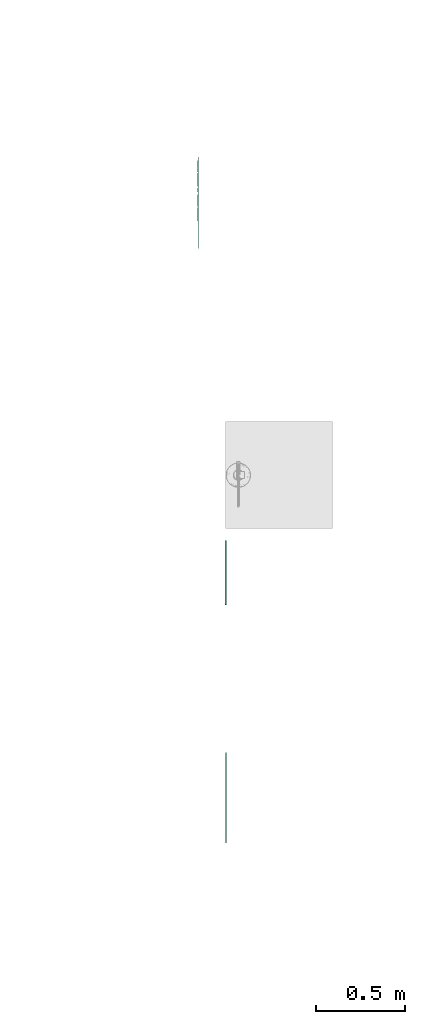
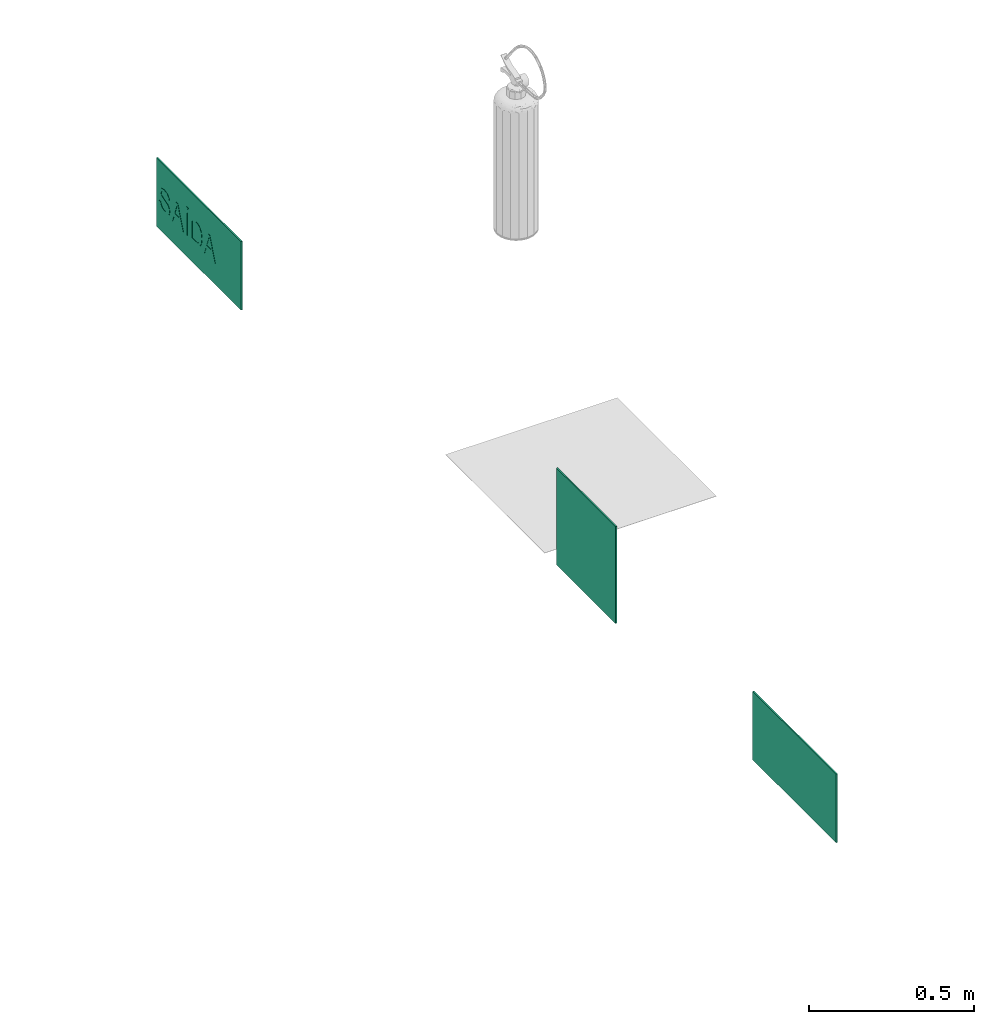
# One storey, part 6 of 9: 3 flow terminals.
"""IFC2X3 building model written with IfcOpenShell, lengths in metres."""

from ifc_helpers import new_model, entity, si_unit, converted_unit, derived_unit, direction, frame, frame_2d, origin, origin_2d_with_axis, place, context, subcontext, project, spatial, polyline, circle_curve, parameter, trimmed, segment, composite_curve, rectangle, circle, outline, extrude, source, transform, mapped, material, material_list, type_object, type_shapes, element, save


model = new_model("IFC2X3")

# Units and contexts
model_context = context("Model", 3, precision=1e-05, world=origin(), true_north=direction((6.12303176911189e-17, 1.0)))
body_context = subcontext(model_context, "Body", "Model", "MODEL_VIEW")
ifc_project = project(units=[si_unit("LENGTHUNIT", "METRE"), si_unit("AREAUNIT", "SQUARE_METRE"), si_unit("VOLUMEUNIT", "CUBIC_METRE"), converted_unit("PLANEANGLEUNIT", "DEGREE", entity("IfcRatioMeasure", 0.0174532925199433), si_unit("PLANEANGLEUNIT", "RADIAN"), dimensions=[0, 0, 0, 0, 0, 0, 0]), si_unit("MASSUNIT", "GRAM", prefix="KILO"), derived_unit("MASSDENSITYUNIT", [(si_unit("MASSUNIT", "GRAM", prefix="KILO"), 1), (si_unit("LENGTHUNIT", "METRE"), -3)]), derived_unit("MOMENTOFINERTIAUNIT", [(si_unit("LENGTHUNIT", "METRE"), 4)]), si_unit("TIMEUNIT", "SECOND"), si_unit("FREQUENCYUNIT", "HERTZ"), si_unit("THERMODYNAMICTEMPERATUREUNIT", "DEGREE_CELSIUS"), derived_unit("THERMALTRANSMITTANCEUNIT", [(si_unit("MASSUNIT", "GRAM", prefix="KILO"), 1), (si_unit("THERMODYNAMICTEMPERATUREUNIT", "KELVIN"), -1), (si_unit("TIMEUNIT", "SECOND"), -3)]), derived_unit("VOLUMETRICFLOWRATEUNIT", [(si_unit("LENGTHUNIT", "METRE"), 3), (si_unit("TIMEUNIT", "SECOND"), -1)]), si_unit("ELECTRICCURRENTUNIT", "AMPERE"), si_unit("ELECTRICVOLTAGEUNIT", "VOLT"), si_unit("POWERUNIT", "WATT"), si_unit("FORCEUNIT", "NEWTON", prefix="KILO"), si_unit("ILLUMINANCEUNIT", "LUX"), si_unit("LUMINOUSFLUXUNIT", "LUMEN"), si_unit("LUMINOUSINTENSITYUNIT", "CANDELA"), derived_unit("USERDEFINED", [(si_unit("MASSUNIT", "GRAM", prefix="KILO"), -1), (si_unit("LENGTHUNIT", "METRE"), -2), (si_unit("TIMEUNIT", "SECOND"), 3), (si_unit("LUMINOUSFLUXUNIT", "LUMEN"), 1)]), derived_unit("LINEARVELOCITYUNIT", [(si_unit("LENGTHUNIT", "METRE"), 1), (si_unit("TIMEUNIT", "SECOND"), -1)]), si_unit("PRESSUREUNIT", "PASCAL"), derived_unit("USERDEFINED", [(si_unit("LENGTHUNIT", "METRE"), -2), (si_unit("MASSUNIT", "GRAM", prefix="KILO"), 1), (si_unit("TIMEUNIT", "SECOND"), -2)]), derived_unit("LINEARFORCEUNIT", [(si_unit("MASSUNIT", "GRAM", prefix="KILO"), 1), (si_unit("LENGTHUNIT", "METRE"), 1), (si_unit("TIMEUNIT", "SECOND"), -2), (si_unit("LENGTHUNIT", "METRE"), -1)]), derived_unit("PLANARFORCEUNIT", [(si_unit("MASSUNIT", "GRAM", prefix="KILO"), 1), (si_unit("LENGTHUNIT", "METRE"), 1), (si_unit("TIMEUNIT", "SECOND"), -2), (si_unit("LENGTHUNIT", "METRE"), -2)])], contexts=[model_context])

# Site, building, storey
site_placement = place(None, origin())
site = spatial("IfcSite", under=ifc_project, at=site_placement, Name="Default", CompositionType="ELEMENT")
building_placement = place(site_placement, origin())
building = spatial("IfcBuilding", under=site, at=building_placement, Name="C.L. MONSENHOR ANTÔNIO SAMPAIO", CompositionType="ELEMENT")
storey_placement = place(building_placement, origin())
storey = spatial("IfcBuildingStorey", under=building, at=storey_placement, Name="TÉRREO", CompositionType="ELEMENT", Elevation=0.0)

# Flow terminals
ifc_material_1 = material(Name="Branco")
ifc_material_2 = material(Name="VERMELHO")
ifc_material_list_1 = material_list([ifc_material_1, ifc_material_2])
distribution_element_type_1 = type_object("IfcDistributionElementType", Name="E5:10 metros", material=ifc_material_1)
shared_shape_1 = source(origin(), body_context, "Body", "SweptSolid", [
    extrude(outline(composite_curve([segment(polyline([(-0.254128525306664, -0.0465583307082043), (-0.0191285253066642, -0.0465583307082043)]), True, "CONTINUOUS"), segment(trimmed(circle_curve(frame_2d((-0.0664803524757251, 0.00975665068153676), x_axis=(0.0, 1.0)), 0.0735769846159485), [parameter(220.058428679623)], [parameter(257.560611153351)], True, "PARAMETER"), True, "CONTINUOUS"), segment(polyline([(0.00536937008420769, -0.00609232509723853), (0.0303693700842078, -0.006092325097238)]), True, "CONTINUOUS"), segment(polyline([(0.0303693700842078, -0.006092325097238), (0.0303693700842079, -0.0230808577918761)]), True, "CONTINUOUS"), segment(polyline([(0.0303693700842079, -0.0230808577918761), (0.0043083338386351, -0.0617179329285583)]), True, "CONTINUOUS"), segment(polyline([(0.0043083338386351, -0.0617179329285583), (-0.0104637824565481, -0.0643226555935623)]), True, "CONTINUOUS"), segment(polyline([(-0.0104637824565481, -0.0643226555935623), (-0.010463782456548, -0.0743226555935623)]), True, "CONTINUOUS"), segment(polyline([(-0.010463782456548, -0.0743226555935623), (0.0120002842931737, -0.0743226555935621)]), True, "CONTINUOUS"), segment(polyline([(0.0120002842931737, -0.0743226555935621), (0.0533610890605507, -0.0267424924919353)]), True, "CONTINUOUS"), segment(polyline([(0.0533610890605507, -0.0267424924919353), (0.0533610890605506, -0.00174249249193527)]), True, "CONTINUOUS"), segment(polyline([(0.0533610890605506, -0.00174249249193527), (0.0602467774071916, -0.00174249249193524)]), True, "CONTINUOUS"), segment(polyline([(0.0602467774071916, -0.00174249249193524), (0.0602467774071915, 0.0232575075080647)]), True, "CONTINUOUS"), segment(polyline([(0.0602467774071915, 0.0232575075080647), (0.0533610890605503, 0.0232575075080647)]), True, "CONTINUOUS"), segment(polyline([(0.0533610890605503, 0.0232575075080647), (0.0533610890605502, 0.0463624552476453)]), True, "CONTINUOUS"), segment(polyline([(0.0533610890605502, 0.0463624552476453), (0.0451773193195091, 0.0545462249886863)]), True, "CONTINUOUS"), segment(polyline([(0.0451773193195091, 0.0545462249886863), (0.0401773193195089, 0.0545462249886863)]), True, "CONTINUOUS"), segment(polyline([(0.0401773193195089, 0.0545462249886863), (0.0303693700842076, 0.0447382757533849)]), True, "CONTINUOUS"), segment(polyline([(0.0303693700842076, 0.0447382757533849), (0.0303693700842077, 0.0272220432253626)]), True, "CONTINUOUS"), segment(polyline([(0.0303693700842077, 0.0272220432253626), (0.00499364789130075, 0.0272220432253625)]), True, "CONTINUOUS"), segment(trimmed(circle_curve(frame_2d((-0.0664803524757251, 0.00975665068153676), x_axis=(0.0, 1.0)), 0.0735769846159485), [parameter(283.731707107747)], [parameter(319.941571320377)], True, "PARAMETER"), True, "CONTINUOUS"), segment(polyline([(-0.019128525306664, 0.0660716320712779), (-0.254128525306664, 0.0660716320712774)]), True, "CONTINUOUS"), segment(polyline([(-0.254128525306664, 0.0660716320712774), (-0.254128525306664, -0.0465583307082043)]), True, "CONTINUOUS")], self_intersect=False)), frame((-0.00975665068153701, -0.005, 0.271403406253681), z_axis=(0.0, 1.0, 0.0), x_axis=(0.0, 0.0, 1.0)), (0.0, 0.0, 1.0), 0.005),
    extrude(outline(polyline([(-0.179, -0.178999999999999), (0.179000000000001, -0.178999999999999), (0.179000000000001, 0.178999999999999), (-0.179000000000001, 0.178999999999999), (-0.179, -0.178999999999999)]), holes=[composite_curve([segment(polyline([(-0.0563149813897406, -0.161725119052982), (-0.056314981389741, 0.0732748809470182)]), True, "CONTINUOUS"), segment(trimmed(circle_curve(frame_2d((0.0, 0.025923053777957), x_axis=(-1.0, 0.0)), 0.0735769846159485), [parameter(283.731707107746)], [parameter(319.941571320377)], True, "PARAMETER"), False, "CONTINUOUS"), segment(polyline([(-0.0174653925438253, 0.0973970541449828), (-0.0174653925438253, 0.12277277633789)]), True, "CONTINUOUS"), segment(polyline([(-0.0174653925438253, 0.12277277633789), (-0.0349816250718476, 0.12277277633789)]), True, "CONTINUOUS"), segment(polyline([(-0.0349816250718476, 0.12277277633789), (-0.044789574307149, 0.132580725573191)]), True, "CONTINUOUS"), segment(polyline([(-0.044789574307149, 0.132580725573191), (-0.044789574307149, 0.137580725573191)]), True, "CONTINUOUS"), segment(polyline([(-0.044789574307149, 0.137580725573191), (-0.0366058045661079, 0.145764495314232)]), True, "CONTINUOUS"), segment(polyline([(-0.0366058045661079, 0.145764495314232), (-0.0135008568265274, 0.145764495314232)]), True, "CONTINUOUS"), segment(polyline([(-0.0135008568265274, 0.145764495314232), (-0.0135008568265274, 0.152650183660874)]), True, "CONTINUOUS"), segment(polyline([(-0.0135008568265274, 0.152650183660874), (0.0114991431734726, 0.152650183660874)]), True, "CONTINUOUS"), segment(polyline([(0.0114991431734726, 0.152650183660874), (0.0114991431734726, 0.145764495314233)]), True, "CONTINUOUS"), segment(polyline([(0.0114991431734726, 0.145764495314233), (0.0364991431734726, 0.145764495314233)]), True, "CONTINUOUS"), segment(polyline([(0.0364991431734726, 0.145764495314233), (0.0840793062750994, 0.104403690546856)]), True, "CONTINUOUS"), segment(polyline([(0.0840793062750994, 0.104403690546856), (0.0840793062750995, 0.081939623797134)]), True, "CONTINUOUS"), segment(polyline([(0.0840793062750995, 0.081939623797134), (0.0740793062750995, 0.0819396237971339)]), True, "CONTINUOUS"), segment(polyline([(0.0740793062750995, 0.0819396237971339), (0.0714745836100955, 0.0967117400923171)]), True, "CONTINUOUS"), segment(polyline([(0.0714745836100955, 0.0967117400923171), (0.0328375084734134, 0.12277277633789)]), True, "CONTINUOUS"), segment(polyline([(0.0328375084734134, 0.12277277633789), (0.0158489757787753, 0.12277277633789)]), True, "CONTINUOUS"), segment(polyline([(0.0158489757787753, 0.12277277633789), (0.0158489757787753, 0.0977727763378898)]), True, "CONTINUOUS"), segment(trimmed(circle_curve(frame_2d((0.0, 0.025923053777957), x_axis=(-1.0, 0.0)), 0.0735769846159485), [parameter(220.058428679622)], [parameter(257.560611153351)], True, "PARAMETER"), False, "CONTINUOUS"), segment(polyline([(0.0563149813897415, 0.0732748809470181), (0.0563149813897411, -0.161725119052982)]), True, "CONTINUOUS"), segment(polyline([(0.0563149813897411, -0.161725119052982), (-0.0563149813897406, -0.161725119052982)]), True, "CONTINUOUS")], self_intersect=False)]), frame((0.0, -0.005, 0.178999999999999), z_axis=(0.0, 1.0, 0.0), x_axis=(-1.0, 0.0, 0.0)), (0.0, 0.0, 1.0), 0.005),
])
type_shapes(distribution_element_type_1, [shared_shape_1])
flow_terminal_1_placement = place(building_placement, frame((-5.84055229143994, -21.1874139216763, 0.0), z_axis=(0.0, 0.0, 1.0), x_axis=(0.0, 1.0, 0.0)))
element("IfcFlowTerminal", 1, at=flow_terminal_1_placement, inside=storey, type_object=distribution_element_type_1, material=ifc_material_list_1, Name="E5:10 metros", ObjectType="E5:10 metros", context=body_context, shape_type="MappedRepresentation", body=[
    mapped(shared_shape_1, transform((0.0, 0.0, 0.0), scale=1.0)),
])
ifc_material_3 = material(Name="VERDE")
ifc_material_list_2 = material_list([ifc_material_1, ifc_material_3])
distribution_element_type_2 = type_object("IfcDistributionElementType", Name="S2:10 metros", material=ifc_material_1)
shared_shape_2 = source(origin(), body_context, "Body", "SweptSolid", [
    extrude(outline(polyline([(-0.12748118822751, 0.0610696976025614), (-0.12748118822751, -0.0766837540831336), (-0.0524811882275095, -0.0766837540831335), (-0.0524811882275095, -0.0586375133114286), (-0.0754210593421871, -0.0425748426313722), (-0.0838734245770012, -0.0244486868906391), (-0.0838734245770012, 0.0305513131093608), (-0.0465667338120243, 0.0557149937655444), (-0.0359601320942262, 0.0451083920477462), (-0.0649764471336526, 0.02553664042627), (-0.0649764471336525, 0.00553664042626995), (-0.0287241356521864, 0.022441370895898), (0.0135955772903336, 0.0261438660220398), (0.0155685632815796, 0.0637906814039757), (0.0343450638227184, 0.0825671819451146), (0.0366135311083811, 0.0176067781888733), (0.0260069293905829, 0.00700017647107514), (-0.00370111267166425, 0.00282498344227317), (-0.00109649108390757, -0.00276064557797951), (0.0690217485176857, -0.0369595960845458), (0.0690217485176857, -0.0633954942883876), (-0.0208576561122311, -0.0195583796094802), (-0.0294894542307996, -0.0195583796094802), (-0.0512605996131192, -0.0348026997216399), (-0.029319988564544, -0.0552626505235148), (-0.029319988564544, -0.0766837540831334), (0.070680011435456, -0.0766837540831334), (0.084822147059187, -0.0625416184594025), (0.0848221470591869, -0.0462279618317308), (0.0717118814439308, -0.0572287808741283), (0.0717118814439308, -0.0310842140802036), (0.0848221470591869, -0.0179739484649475), (0.0848221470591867, 0.0744479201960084), (0.0714395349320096, 0.0595850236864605), (0.0393589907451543, 0.0595850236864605), (0.0393589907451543, 0.0895850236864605), (0.0340999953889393, 0.0895850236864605), (0.00751881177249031, 0.0610696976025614), (-0.12748118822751, 0.0610696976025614)]), holes=[composite_curve([segment(trimmed(circle_curve(frame_2d((-0.103271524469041, -0.0324099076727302), x_axis=(0.0, -1.0)), 0.0177066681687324), [parameter(6.61555373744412e-13)], [parameter(180.0)], True, "PARAMETER"), False, "CONTINUOUS"), segment(trimmed(circle_curve(frame_2d((-0.103271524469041, -0.0324099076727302), x_axis=(0.0, -1.0)), 0.0177066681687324), [parameter(180.0)], [parameter(0.0)], True, "PARAMETER"), False, "CONTINUOUS")], self_intersect=False)]), frame((0.135804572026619, -0.005, 0.100036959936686), z_axis=(0.0, -1.0, 0.0), x_axis=(0.0, 0.0, -1.0)), (0.0, 0.0, -1.0), 0.005),
    extrude(outline(polyline([(-0.0156689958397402, -0.0893393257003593), (0.0156689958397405, -0.0893393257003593), (0.0156689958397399, 0.0256606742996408), (0.0545598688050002, -0.0132301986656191), (0.0545598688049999, 0.0317698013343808), (0.0, 0.0902780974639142), (-0.0545598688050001, 0.0317698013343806), (-0.0545598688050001, -0.0132301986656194), (-0.01566899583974, 0.0256606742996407), (-0.0156689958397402, -0.0893393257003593)])), frame((-0.12865825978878, -0.005, 0.12724469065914), z_axis=(0.0, 1.0, 0.0), x_axis=(0.0, 0.0, -1.0)), (0.0, 0.0, 1.0), 0.005),
    extrude(outline(polyline([(-0.126499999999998, -0.253), (0.1265, -0.253), (0.126499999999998, 0.253), (-0.1265, 0.252999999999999), (-0.126499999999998, -0.253)]), holes=[polyline([(0.0164136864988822, -0.154318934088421), (0.0553045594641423, -0.11542806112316), (0.0553045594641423, -0.16042806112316), (0.000744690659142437, -0.218936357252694), (-0.0538151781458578, -0.160428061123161), (-0.0538151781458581, -0.115428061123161), (-0.0149243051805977, -0.154318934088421), (-0.0149243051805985, -0.0393189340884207), (0.0164136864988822, -0.0393189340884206), (0.0164136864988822, -0.154318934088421)]), polyline([(0.101018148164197, 0.19687426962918), (0.101018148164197, 0.0591208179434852), (0.0260181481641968, 0.0591208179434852), (0.0260181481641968, 0.0771670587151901), (0.0489580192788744, 0.0932297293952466), (0.0574103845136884, 0.11135588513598), (0.0574103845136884, 0.16635588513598), (0.0201036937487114, 0.191519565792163), (0.00949709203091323, 0.180912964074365), (0.0385134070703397, 0.161341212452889), (0.0385134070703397, 0.141341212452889), (0.00226109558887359, 0.158245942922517), (-0.0400586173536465, 0.161948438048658), (-0.0420316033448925, 0.199595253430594), (-0.0608081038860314, 0.218371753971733), (-0.063076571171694, 0.153411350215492), (-0.0524699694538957, 0.142804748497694), (-0.0227619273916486, 0.138629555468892), (-0.0253665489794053, 0.133043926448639), (-0.0954847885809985, 0.0988449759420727), (-0.0954847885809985, 0.0724090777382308), (-0.00560538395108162, 0.116246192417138), (0.0030264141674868, 0.116246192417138), (0.0247975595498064, 0.101001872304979), (0.00285694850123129, 0.0805419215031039), (0.00285694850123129, 0.0591208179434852), (-0.0971430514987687, 0.059120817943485), (-0.1112851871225, 0.0732629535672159), (-0.1112851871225, 0.0895766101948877), (-0.0981749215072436, 0.0785757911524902), (-0.0981749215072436, 0.104720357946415), (-0.1112851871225, 0.117830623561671), (-0.1112851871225, 0.210252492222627), (-0.0979025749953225, 0.195389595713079), (-0.0658220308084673, 0.195389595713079), (-0.0658220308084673, 0.225389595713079), (-0.0605630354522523, 0.225389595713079), (-0.0339818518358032, 0.19687426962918), (0.101018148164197, 0.19687426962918)])]), frame((0.0, -0.005, 0.126499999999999), z_axis=(0.0, 1.0, 0.0), x_axis=(0.0, 0.0, 1.0)), (0.0, 0.0, 1.0), 0.005),
    extrude(circle(Radius=0.0177066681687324, at=frame_2d((0.0, -1.01518793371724e-16), x_axis=(1.0, 0.0))), frame((0.103394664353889, -0.005, 0.203308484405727), z_axis=(0.0, 1.0, 0.0), x_axis=(-1.0, 0.0, 0.0)), (0.0, 0.0, 1.0), 0.005),
])
type_shapes(distribution_element_type_2, [shared_shape_2])
flow_terminal_2_placement = place(building_placement, frame((-5.84055229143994, -22.4496297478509, 0.0), z_axis=(0.0, 0.0, 1.0), x_axis=(0.0, 1.0, 0.0)))
element("IfcFlowTerminal", 2, at=flow_terminal_2_placement, inside=storey, type_object=distribution_element_type_2, material=ifc_material_list_2, Name="S2:10 metros", ObjectType="S2:10 metros", context=body_context, shape_type="MappedRepresentation", body=[
    mapped(shared_shape_2, transform((0.0, 0.0, 0.0), scale=1.0)),
])
ifc_material_list_3 = material_list([ifc_material_1, ifc_material_3])
distribution_element_type_3 = type_object("IfcDistributionElementType", Name="S14:10 metros", material=ifc_material_1)
shared_shape_3 = source(origin(), body_context, "Body", "SweptSolid", [
    extrude(outline(polyline([(-0.0336503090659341, 0.0122800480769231), (-0.0231887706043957, 0.0122800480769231), (-0.0198173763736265, 0.0227518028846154), (-0.0115830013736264, 0.0293719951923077), (0.000962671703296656, 0.0318954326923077), (0.011894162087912, 0.0299849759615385), (0.0189536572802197, 0.0247337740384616), (0.0212727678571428, 0.0177151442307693), (0.0195359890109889, 0.0111868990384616), (0.012425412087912, 0.00643629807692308), (-0.00280716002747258, 0.00244170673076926), (-0.0192043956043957, -0.00271754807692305), (-0.0281028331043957, -0.0105024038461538), (-0.0310349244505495, -0.0209026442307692), (-0.0274081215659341, -0.0327433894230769), (-0.0168137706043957, -0.0411003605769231), (-0.00130535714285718, -0.0439507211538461), (0.0152451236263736, -0.0409675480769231), (0.0262787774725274, -0.032201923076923), (0.030426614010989, -0.0191045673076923), (0.0199650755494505, -0.0191045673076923), (0.0140395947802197, -0.0298521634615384), (-0.000896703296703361, -0.0334891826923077), (-0.0158738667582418, -0.0298930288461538), (-0.0205733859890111, -0.0212091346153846), (-0.0172428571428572, -0.0139555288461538), (-0.000161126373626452, -0.00811177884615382), (0.0183508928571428, -0.0028605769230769), (0.0284752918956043, 0.0056189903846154), (0.0317343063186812, 0.0174495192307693), (0.0279849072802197, 0.0299645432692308), (0.0171964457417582, 0.0390979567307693), (0.00137132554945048, 0.0423569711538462), (-0.0173143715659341, 0.0388425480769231), (-0.0291346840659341, 0.0282584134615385), (-0.0336503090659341, 0.0122800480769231)])), frame((-0.20180957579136, -0.006, 0.120011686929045), z_axis=(0.0, 1.0, 0.0), x_axis=(1.0, 0.0, 0.0)), (0.0, 0.0, 1.0), 0.006),
    extrude(outline(polyline([(-0.0395400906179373, -0.0249807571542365), (0.0505735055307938, -0.0249807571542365), (0.0538761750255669, -0.0167069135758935), (-0.0114673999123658, 0.0453469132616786), (-0.0155654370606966, 0.0350805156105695), (0.00517210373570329, 0.0164845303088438), (-0.00760680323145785, -0.0155291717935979), (-0.0354420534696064, -0.0147143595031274), (-0.0395400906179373, -0.0249807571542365)]), holes=[polyline([(0.00353335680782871, -0.0158399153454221), (0.0134716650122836, 0.00905752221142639), (0.0297860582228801, -0.00557283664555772), (0.0425087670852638, -0.0169654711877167), (0.0273503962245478, -0.0165248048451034), (0.00353335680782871, -0.0158399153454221)])]), frame((-0.126270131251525, -0.006, 0.10642394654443), z_axis=(0.0, 1.0, 0.0), x_axis=(0.370725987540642, 0.0, 0.92874229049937)), (0.0, 0.0, 1.0), 0.006),
    extrude(outline(polyline([(-0.0111115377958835, -0.00467854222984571), (0.00643299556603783, -0.00467854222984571), (0.012281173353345, 0.00701781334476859), (-0.00760263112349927, 0.00233927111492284), (-0.0111115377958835, -0.00467854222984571)])), frame((-0.0693829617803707, -0.006, 0.175731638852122), z_axis=(0.0, 1.0, 0.0), x_axis=(0.447213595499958, 0.0, 0.894427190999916)), (0.0, 0.0, 1.0), 0.006),
    extrude(outline(polyline([(-0.039712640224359, -0.0433539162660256), (0.0439796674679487, -0.0433539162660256), (0.0439796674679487, -0.0144825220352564), (0.0427741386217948, 0.000453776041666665), (0.036787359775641, 0.0127542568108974), (0.0224844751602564, 0.0226641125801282), (0.00258303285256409, 0.0259537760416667), (-0.0143045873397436, 0.0237266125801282), (-0.026492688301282, 0.0180054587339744), (-0.0340834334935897, 0.0103636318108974), (-0.0382823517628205, 0.000361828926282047), (-0.039712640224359, -0.0130930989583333), (-0.039712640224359, -0.0433539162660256)]), holes=[polyline([(-0.0292511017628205, -0.0328923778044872), (-0.0292511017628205, -0.014380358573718), (-0.0277390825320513, -0.000915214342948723), (-0.0234686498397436, 0.00684920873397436), (-0.013078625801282, 0.0132139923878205), (0.00274649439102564, 0.0154922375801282), (0.0225662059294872, 0.0110276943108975), (0.0318426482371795, 0.000167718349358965), (0.0335181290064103, -0.0146664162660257), (0.0335181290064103, -0.0328923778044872), (-0.0292511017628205, -0.0328923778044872)])]), frame((-0.00118289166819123, -0.006, 0.11867504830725), z_axis=(0.0, 1.0, 0.0), x_axis=(0.0, 0.0, 1.0)), (0.0, 0.0, 1.0), 0.006),
    extrude(outline(polyline([(-0.0395400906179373, -0.0249807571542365), (0.0505735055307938, -0.0249807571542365), (0.0538761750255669, -0.0167069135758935), (-0.0114673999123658, 0.0453469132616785), (-0.0155654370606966, 0.0350805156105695), (0.00517210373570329, 0.0164845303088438), (-0.00760680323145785, -0.0155291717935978), (-0.0354420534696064, -0.0147143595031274), (-0.0395400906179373, -0.0249807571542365)]), holes=[polyline([(0.00353335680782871, -0.0158399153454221), (0.0134716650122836, 0.00905752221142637), (0.0297860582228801, -0.0055728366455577), (0.0425087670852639, -0.0169654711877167), (0.0273503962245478, -0.0165248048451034), (0.00353335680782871, -0.0158399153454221)])]), frame((0.067268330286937, -0.006, 0.10642394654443), z_axis=(0.0, 1.0, 0.0), x_axis=(0.370725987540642, 0.0, 0.92874229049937)), (0.0, 0.0, 1.0), 0.006),
    extrude(rectangle(XDim=0.006, YDim=0.0104615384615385, at=origin_2d_with_axis()), frame((-0.070690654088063, -0.003, 0.0789624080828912), z_axis=(0.0, 0.0, 1.0), x_axis=(0.0, 1.0, 0.0)), (0.0, 0.0, 1.0), 0.0836923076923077),
    extrude(outline(polyline([(-0.0439216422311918, -0.09168512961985), (0.0551513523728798, -0.09168512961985), (0.0551513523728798, -0.0377447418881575), (0.0421724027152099, -0.0377447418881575), (0.0306200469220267, -0.0542432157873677), (0.017583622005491, -0.0603222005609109), (-0.0219726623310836, -0.0603222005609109), (-0.0400705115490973, -0.0334910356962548), (-0.0324421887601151, -0.0258627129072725), (-0.018366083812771, -0.0467313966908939), (-0.00398198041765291, -0.0467313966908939), (-0.0161399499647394, -0.0206585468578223), (-0.0188028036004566, 0.00977800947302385), (-0.0458785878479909, 0.011196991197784), (-0.0593827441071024, 0.0247011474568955), (-0.012662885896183, 0.0263326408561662), (-0.00503456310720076, 0.0187043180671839), (-0.00203174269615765, -0.00266185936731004), (0.00198547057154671, -0.000788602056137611), (0.0265815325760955, 0.0496407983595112), (0.0455943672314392, 0.0496407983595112), (0.0140664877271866, -0.0150009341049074), (0.0140664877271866, -0.0212089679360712), (0.0250302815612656, -0.0368668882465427), (0.0397451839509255, -0.021087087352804), (0.0551513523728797, -0.0210870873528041), (0.0551513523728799, 0.050833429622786), (0.0449802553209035, 0.0610045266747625), (0.0332473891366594, 0.0610045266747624), (0.0411592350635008, 0.0515755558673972), (0.0223559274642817, 0.0515755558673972), (0.0129269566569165, 0.0610045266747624), (-0.0535433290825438, 0.0610045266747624), (-0.0428538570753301, 0.0513796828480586), (-0.0428538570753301, 0.0283071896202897), (-0.0644300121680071, 0.0283071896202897), (-0.0644300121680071, 0.0245248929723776), (-0.0439216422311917, 0.00540756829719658), (-0.0439216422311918, -0.09168512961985)]), holes=[composite_curve([segment(trimmed(circle_curve(frame_2d((0.023309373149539, -0.0742734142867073), x_axis=(1.0, 0.0)), 0.0127347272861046), [parameter(3.05333249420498e-13)], [parameter(180.0)], True, "PARAMETER"), False, "CONTINUOUS"), segment(trimmed(circle_curve(frame_2d((0.023309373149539, -0.0742734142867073), x_axis=(1.0, 0.0)), 0.0127347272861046), [parameter(180.0)], [parameter(360.0)], True, "PARAMETER"), False, "CONTINUOUS")], self_intersect=False)]), frame((0.184385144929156, -0.005, 0.108269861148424), z_axis=(0.0, 1.0, 0.0), x_axis=(1.0, 0.0, 0.0)), (0.0, 0.0, 1.0), 0.005),
    extrude(outline(polyline([(-0.256268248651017, -0.126499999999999), (0.256268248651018, -0.126499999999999), (0.256268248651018, 0.126499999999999), (-0.256268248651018, 0.126499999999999), (-0.256268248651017, -0.126499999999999)]), holes=[polyline([(-0.137195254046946, 0.0734549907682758), (-0.137195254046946, -0.0236377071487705), (-0.116686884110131, -0.0427550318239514), (-0.116686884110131, -0.0465373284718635), (-0.138263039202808, -0.0465373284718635), (-0.138263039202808, -0.0696098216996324), (-0.127573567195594, -0.0792346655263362), (-0.194043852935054, -0.0792346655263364), (-0.203472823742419, -0.0698056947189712), (-0.222276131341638, -0.0698056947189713), (-0.214364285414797, -0.0792346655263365), (-0.226097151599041, -0.0792346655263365), (-0.236268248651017, -0.0690635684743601), (-0.236268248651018, 0.00285694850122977), (-0.220862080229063, 0.0028569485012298), (-0.206147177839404, 0.0186367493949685), (-0.195183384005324, 0.00297882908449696), (-0.195183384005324, -0.00322920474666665), (-0.226711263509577, -0.0678709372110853), (-0.207698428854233, -0.0678709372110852), (-0.183102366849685, -0.0174415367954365), (-0.17908515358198, -0.015568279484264), (-0.176082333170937, -0.0369344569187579), (-0.168454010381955, -0.0445627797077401), (-0.121734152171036, -0.0429312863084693), (-0.135238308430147, -0.0294271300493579), (-0.162314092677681, -0.0280081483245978), (-0.164976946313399, 0.0024284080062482), (-0.177134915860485, 0.0285012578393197), (-0.162750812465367, 0.0285012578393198), (-0.148674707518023, 0.00763257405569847), (-0.141046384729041, 0.0152608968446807), (-0.159144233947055, 0.0420920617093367), (-0.198700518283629, 0.0420920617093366), (-0.211736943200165, 0.0360130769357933), (-0.223289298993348, 0.0195146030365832), (-0.236268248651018, 0.0195146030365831), (-0.236268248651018, 0.0734549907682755), (-0.137195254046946, 0.0734549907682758)])]), frame((0.00326824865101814, -0.005, 0.126499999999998), z_axis=(0.0, 1.0, 0.0), x_axis=(-1.0, 0.0, 0.0)), (0.0, 0.0, 1.0), 0.005),
    extrude(circle(Radius=0.0127347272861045, at=frame_2d((0.0, -3.38395977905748e-17), x_axis=(1.0, 0.0))), frame((0.207694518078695, -0.005, 0.182543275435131), z_axis=(0.0, 1.0, 0.0), x_axis=(1.0, 0.0, 0.0)), (0.0, 0.0, 1.0), 0.005),
])
type_shapes(distribution_element_type_3, [shared_shape_3])
flow_terminal_3_placement = place(building_placement, frame((-5.99055229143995, -19.1080663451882, 0.0), z_axis=(0.0, 0.0, 1.0), x_axis=(0.0, -1.0, 0.0)))
element("IfcFlowTerminal", 3, at=flow_terminal_3_placement, inside=storey, type_object=distribution_element_type_3, material=ifc_material_list_3, Name="S14:10 metros", ObjectType="S14:10 metros", context=body_context, shape_type="MappedRepresentation", body=[
    mapped(shared_shape_3, transform((0.0, 0.0, 0.0), scale=1.0)),
])

save(model, "model.ifc")
